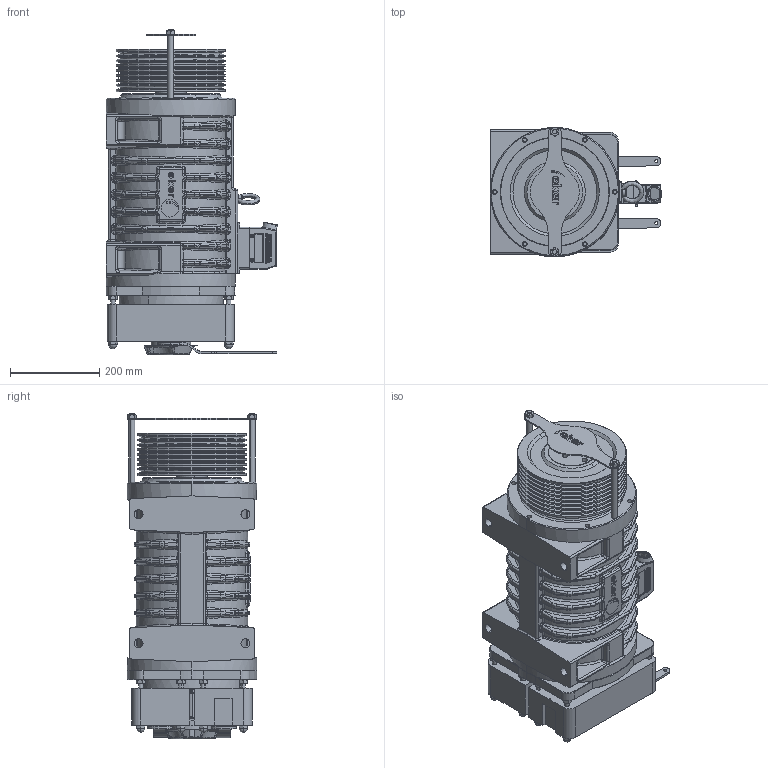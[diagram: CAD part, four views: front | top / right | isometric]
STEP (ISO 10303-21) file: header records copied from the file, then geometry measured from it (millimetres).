
FILE_DESCRIPTION (( 'STEP AP214' ), '1' );
FILE_NAME ('QS42463160.STEP', '2024-12-24T06:43:18', ( '' ), ( '' ), 'SwSTEP 2.0', 'SolidWorks 2023', '' );
FILE_SCHEMA (( 'AUTOMOTIVE_DESIGN' ));
Length unit declared in the file: millimetre
Products named in the file (1): QS42463160
Bounding box: 385.11 x 290.77 x 731.5 mm (x, y, z)
Volume: 37848464.8 mm3; surface area: 1804730.6 mm2
Topology: 16 solids, 29 shells, 4082 faces, 9989 edges, 5754 vertices
Faces by surface type: cylinder 1284, bspline 1023, plane 849, cone 418, sphere 284, torus 224
Entity records: 148771 total; most frequent: CARTESIAN_POINT 62727, ORIENTED_EDGE 19260, DIRECTION 16670, EDGE_CURVE 9630, AXIS2_PLACEMENT_3D 6792, VERTEX_POINT 5746, EDGE_LOOP 4352, FACE_OUTER_BOUND 4082
